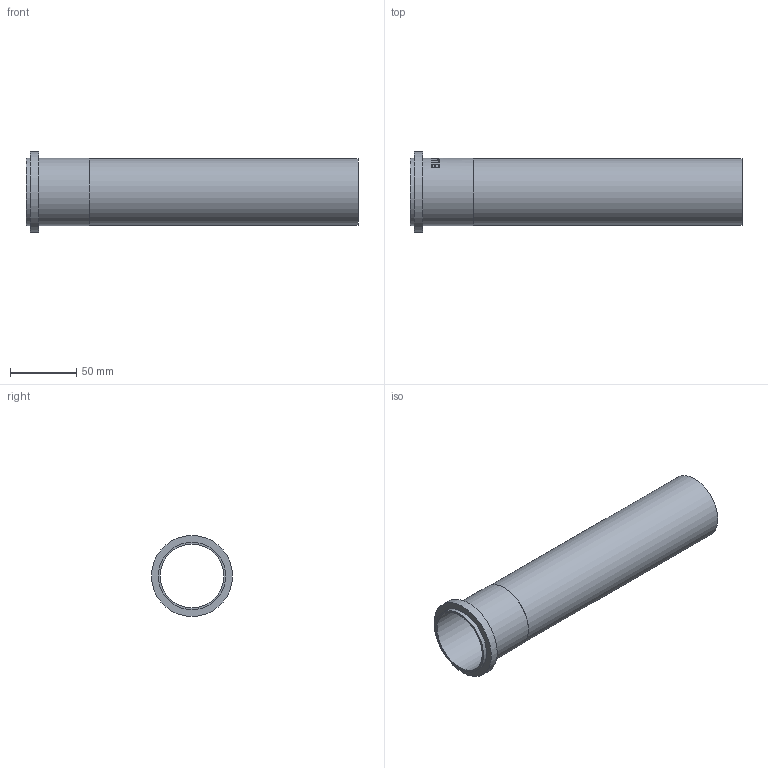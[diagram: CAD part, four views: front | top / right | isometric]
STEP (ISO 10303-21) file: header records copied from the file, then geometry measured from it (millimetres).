
FILE_DESCRIPTION((''),'2;1');
FILE_NAME('I:\WATTS\3D_CAD\3D_CAD_Models\Blucher_Drains\P_StraightPipe\WebsiteFiles\3D\STEP\P2-0.8-316.stp','2009-12-02T13:26:21',('menesek'),(''),'Autodesk Inventor 2010','Autodesk Inventor 2010','');
FILE_SCHEMA(('AUTOMOTIVE_DESIGN { 1 0 10303 214 1 1 1 1 }'));
Length unit declared in the file: inch
Products named in the file (1): P2-0.8-316
Bounding box: 250 x 60.96 x 60.96 mm (x, y, z)
Volume: 47641.6 mm3; surface area: 79593.4 mm2
Topology: 1 solids, 1 shells, 109 faces, 285 edges, 190 vertices
Faces by surface type: plane 59, bspline 34, cylinder 16
Full cylindrical faces by diameter (mm): 48.006 x1, 50.038 x1, 50.8 x2, 60.96 x1
Entity records: 13765 total; most frequent: CARTESIAN_POINT 11387, ORIENTED_EDGE 548, DIRECTION 356, EDGE_CURVE 274, VERTEX_POINT 186, EDGE_LOOP 128, AXIS2_PLACEMENT_3D 120, VECTOR 116
